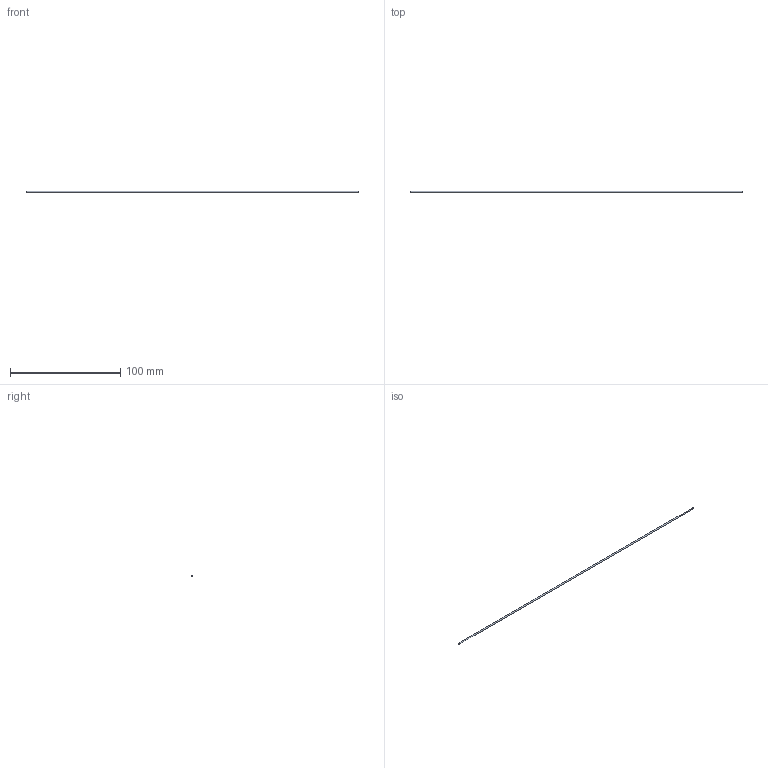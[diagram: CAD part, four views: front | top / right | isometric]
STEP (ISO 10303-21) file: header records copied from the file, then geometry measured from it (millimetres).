
FILE_DESCRIPTION(('Open CASCADE Model'),'2;1');
FILE_NAME('Open CASCADE Shape Model','2026-10-25T05:18:02',('Author'),( 'Open CASCADE'),'Open CASCADE STEP processor 7.9','Open CASCADE 7.9' ,'Unknown');
FILE_SCHEMA(('AUTOMOTIVE_DESIGN { 1 0 10303 214 1 1 1 1 }'));
Length unit declared in the file: millimetre
Products named in the file (1): Open CASCADE STEP translator 7.9 137
Bounding box: 300.5 x 1.2 x 1.2 mm (x, y, z)
Volume: 339.9 mm3; surface area: 1135.1 mm2
Topology: 1 solids, 1 shells, 3 faces, 3 edges, 2 vertices
Faces by surface type: plane 2, cylinder 1
Full cylindrical faces by diameter (mm): 1.2 x1
Entity records: 108 total; most frequent: DIRECTION 19, CARTESIAN_POINT 15, AXIS2_PLACEMENT_3D 6, ORIENTED_EDGE 6, PCURVE 6, DEFINITIONAL_REPRESENTATION 6, LINE 5, VECTOR 5
